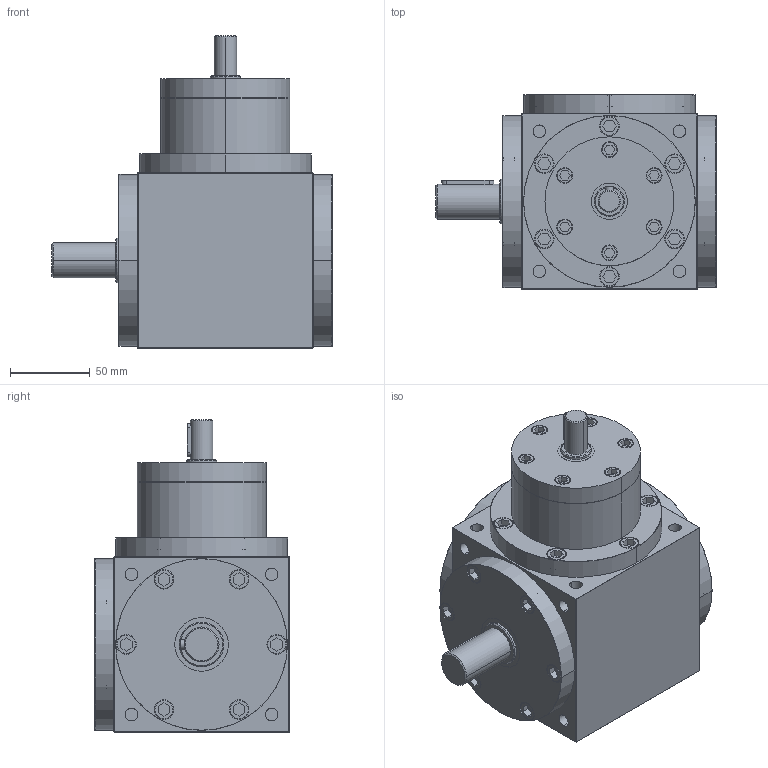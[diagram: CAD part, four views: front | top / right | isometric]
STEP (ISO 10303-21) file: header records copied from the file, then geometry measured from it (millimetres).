
FILE_DESCRIPTION (( 'STEP AP203' ), '1' );
FILE_NAME ('VSAF11-1£º1.5-A.step', '2018-01-25T04:51:31', ( '' ), ( '' ), 'SwSTEP 2.0', 'SolidWorks 2016', '' );
FILE_SCHEMA (( 'CONFIG_CONTROL_DESIGN' ));
Length unit declared in the file: millimetre
Products named in the file (1): VSAF11-1：1.5-A
Bounding box: 176 x 122 x 196 mm (x, y, z)
Volume: 2017434.2 mm3; surface area: 129191.5 mm2
Topology: 2 solids, 2 shells, 672 faces, 1500 edges, 923 vertices
Faces by surface type: plane 317, cylinder 271, torus 68, cone 8, sphere 8
Entity records: 18692 total; most frequent: CARTESIAN_POINT 3590, DIRECTION 3285, ORIENTED_EDGE 2984, EDGE_CURVE 1492, AXIS2_PLACEMENT_3D 1252, VERTEX_POINT 923, EDGE_LOOP 795, LINE 781
